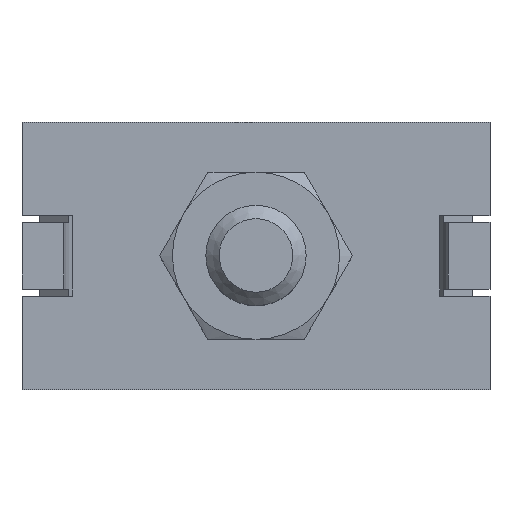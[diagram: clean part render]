
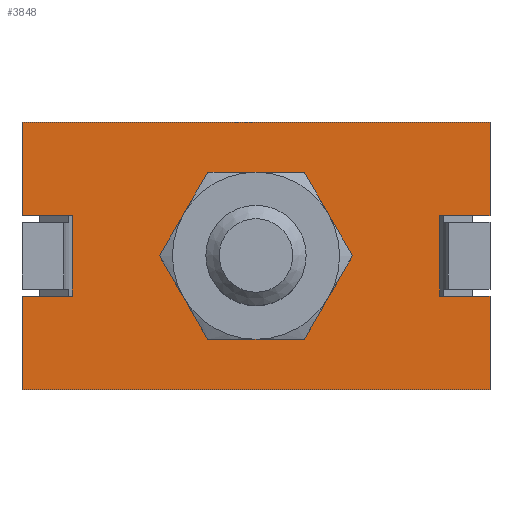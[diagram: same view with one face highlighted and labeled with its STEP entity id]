
A CAD part, top view. The second image highlights one B-rep face of the part: STEP entity #3848.
In plain terms, the highlighted planar face has unit normal (0, 0, 1).
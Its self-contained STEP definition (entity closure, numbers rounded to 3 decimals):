
#35=LINE('',#4948,#323);
#36=LINE('',#4950,#324);
#198=LINE('',#5541,#486);
#199=LINE('',#5544,#487);
#200=LINE('',#5546,#488);
#201=LINE('',#5548,#489);
#202=LINE('',#5550,#490);
#203=LINE('',#5552,#491);
#204=LINE('',#5554,#492);
#205=LINE('',#5556,#493);
#206=LINE('',#5558,#494);
#207=LINE('',#5560,#495);
#208=LINE('',#5562,#496);
#209=LINE('',#5564,#497);
#323=VECTOR('',#4202,1000.);
#324=VECTOR('',#4205,1000.);
#486=VECTOR('',#4593,1000.);
#487=VECTOR('',#4594,1000.);
#488=VECTOR('',#4595,1000.);
#489=VECTOR('',#4596,1000.);
#490=VECTOR('',#4597,1000.);
#491=VECTOR('',#4598,1000.);
#492=VECTOR('',#4599,1000.);
#493=VECTOR('',#4600,1000.);
#494=VECTOR('',#4601,1000.);
#495=VECTOR('',#4602,1000.);
#496=VECTOR('',#4603,1000.);
#497=VECTOR('',#4604,1000.);
#648=PLANE('',#4074);
#1203=ORIENTED_EDGE('',*,*,#1550,.T.);
#1204=ORIENTED_EDGE('',*,*,#1565,.T.);
#1205=ORIENTED_EDGE('',*,*,#1559,.T.);
#1206=ORIENTED_EDGE('',*,*,#1566,.F.);
#1207=ORIENTED_EDGE('',*,*,#1807,.T.);
#1208=ORIENTED_EDGE('',*,*,#1808,.T.);
#1209=ORIENTED_EDGE('',*,*,#1809,.T.);
#1210=ORIENTED_EDGE('',*,*,#1810,.F.);
#1211=ORIENTED_EDGE('',*,*,#1811,.F.);
#1212=ORIENTED_EDGE('',*,*,#1812,.F.);
#1213=ORIENTED_EDGE('',*,*,#1813,.T.);
#1214=ORIENTED_EDGE('',*,*,#1814,.T.);
#1215=ORIENTED_EDGE('',*,*,#1815,.T.);
#1216=ORIENTED_EDGE('',*,*,#1816,.F.);
#1217=ORIENTED_EDGE('',*,*,#1817,.F.);
#1218=ORIENTED_EDGE('',*,*,#1818,.F.);
#1219=ORIENTED_EDGE('',*,*,#1819,.T.);
#1550=EDGE_CURVE('',#1932,#1933,#2186,.T.);
#1559=EDGE_CURVE('',#1941,#1940,#2190,.F.);
#1565=EDGE_CURVE('',#1933,#1941,#35,.T.);
#1566=EDGE_CURVE('',#1932,#1940,#36,.T.);
#1807=EDGE_CURVE('',#2133,#2133,#2237,.F.);
#1808=EDGE_CURVE('',#2134,#2135,#198,.T.);
#1809=EDGE_CURVE('',#2135,#2136,#199,.T.);
#1810=EDGE_CURVE('',#2137,#2136,#200,.T.);
#1811=EDGE_CURVE('',#2138,#2137,#201,.T.);
#1812=EDGE_CURVE('',#2139,#2138,#202,.T.);
#1813=EDGE_CURVE('',#2139,#2140,#203,.T.);
#1814=EDGE_CURVE('',#2140,#2141,#204,.T.);
#1815=EDGE_CURVE('',#2141,#2142,#205,.T.);
#1816=EDGE_CURVE('',#2143,#2142,#206,.T.);
#1817=EDGE_CURVE('',#2144,#2143,#207,.T.);
#1818=EDGE_CURVE('',#2145,#2144,#208,.T.);
#1819=EDGE_CURVE('',#2145,#2134,#209,.T.);
#1932=VERTEX_POINT('',#4906);
#1933=VERTEX_POINT('',#4907);
#1940=VERTEX_POINT('',#4927);
#1941=VERTEX_POINT('',#4929);
#2133=VERTEX_POINT('',#5540);
#2134=VERTEX_POINT('',#5542);
#2135=VERTEX_POINT('',#5543);
#2136=VERTEX_POINT('',#5545);
#2137=VERTEX_POINT('',#5547);
#2138=VERTEX_POINT('',#5549);
#2139=VERTEX_POINT('',#5551);
#2140=VERTEX_POINT('',#5553);
#2141=VERTEX_POINT('',#5555);
#2142=VERTEX_POINT('',#5557);
#2143=VERTEX_POINT('',#5559);
#2144=VERTEX_POINT('',#5561);
#2145=VERTEX_POINT('',#5563);
#2186=CIRCLE('',#3948,4.55);
#2190=CIRCLE('',#3958,3.35);
#2237=CIRCLE('',#4075,3.25);
#2337=EDGE_LOOP('',(#1203,#1204,#1205,#1206));
#2338=EDGE_LOOP('',(#1207));
#2339=EDGE_LOOP('',(#1208,#1209,#1210,#1211,#1212,#1213,#1214,#1215,#1216,
#1217,#1218,#1219));
#2533=FACE_BOUND('',#2337,.T.);
#2534=FACE_BOUND('',#2338,.T.);
#2535=FACE_BOUND('',#2339,.T.);
#3848=ADVANCED_FACE('',(#2533,#2534,#2535),#648,.T.);
#3948=AXIS2_PLACEMENT_3D('',#4905,#4173,#4174);
#3958=AXIS2_PLACEMENT_3D('',#4928,#4193,#4194);
#4074=AXIS2_PLACEMENT_3D('',#5538,#4589,#4590);
#4075=AXIS2_PLACEMENT_3D('',#5539,#4591,#4592);
#4173=DIRECTION('',(0.,0.,-1.));
#4174=DIRECTION('',(-0.006,1.,0.));
#4193=DIRECTION('',(0.,0.,-1.));
#4194=DIRECTION('',(0.006,-1.,0.));
#4202=DIRECTION('',(0.006,-1.,0.));
#4205=DIRECTION('',(0.006,-1.,0.));
#4589=DIRECTION('',(0.,0.,1.));
#4590=DIRECTION('',(1.,0.,0.));
#4591=DIRECTION('',(0.,0.,1.));
#4592=DIRECTION('',(1.,0.,0.));
#4593=DIRECTION('',(0.,-1.,0.));
#4594=DIRECTION('',(-1.,0.,0.));
#4595=DIRECTION('',(0.,1.,0.));
#4596=DIRECTION('',(-1.,0.,0.));
#4597=DIRECTION('',(0.,-1.,0.));
#4598=DIRECTION('',(-1.,0.,0.));
#4599=DIRECTION('',(0.,1.,0.));
#4600=DIRECTION('',(1.,0.,0.));
#4601=DIRECTION('',(0.,-1.,0.));
#4602=DIRECTION('',(1.,0.,0.));
#4603=DIRECTION('',(0.,1.,0.));
#4604=DIRECTION('',(1.,0.,0.));
#4905=CARTESIAN_POINT('',(0.,8.,-0.35));
#4906=CARTESIAN_POINT('',(-0.195,12.546,-0.35));
#4907=CARTESIAN_POINT('',(-0.408,12.532,-0.35));
#4927=CARTESIAN_POINT('',(-0.188,11.345,-0.35));
#4928=CARTESIAN_POINT('',(0.,8.,-0.35));
#4929=CARTESIAN_POINT('',(-0.4,11.326,-0.35));
#4948=CARTESIAN_POINT('',(-0.438,17.392,-0.35));
#4950=CARTESIAN_POINT('',(-0.226,17.394,-0.35));
#5538=CARTESIAN_POINT('',(14.,16.,-0.35));
#5539=CARTESIAN_POINT('',(0.,8.,-0.35));
#5540=CARTESIAN_POINT('',(3.25,8.,-0.35));
#5541=CARTESIAN_POINT('',(-11.,16.,-0.35));
#5542=CARTESIAN_POINT('',(-11.,10.4,-0.35));
#5543=CARTESIAN_POINT('',(-11.,5.6,-0.35));
#5544=CARTESIAN_POINT('',(14.,5.6,-0.35));
#5545=CARTESIAN_POINT('',(-14.,5.6,-0.35));
#5546=CARTESIAN_POINT('',(-14.,0.,-0.35));
#5547=CARTESIAN_POINT('',(-14.,0.,-0.35));
#5548=CARTESIAN_POINT('',(14.,0.,-0.35));
#5549=CARTESIAN_POINT('',(14.,0.,-0.35));
#5550=CARTESIAN_POINT('',(14.,16.,-0.35));
#5551=CARTESIAN_POINT('',(14.,5.6,-0.35));
#5552=CARTESIAN_POINT('',(14.,5.6,-0.35));
#5553=CARTESIAN_POINT('',(11.,5.6,-0.35));
#5554=CARTESIAN_POINT('',(11.,16.,-0.35));
#5555=CARTESIAN_POINT('',(11.,10.4,-0.35));
#5556=CARTESIAN_POINT('',(14.,10.4,-0.35));
#5557=CARTESIAN_POINT('',(14.,10.4,-0.35));
#5558=CARTESIAN_POINT('',(14.,16.,-0.35));
#5559=CARTESIAN_POINT('',(14.,16.,-0.35));
#5560=CARTESIAN_POINT('',(-14.,16.,-0.35));
#5561=CARTESIAN_POINT('',(-14.,16.,-0.35));
#5562=CARTESIAN_POINT('',(-14.,0.,-0.35));
#5563=CARTESIAN_POINT('',(-14.,10.4,-0.35));
#5564=CARTESIAN_POINT('',(14.,10.4,-0.35));
